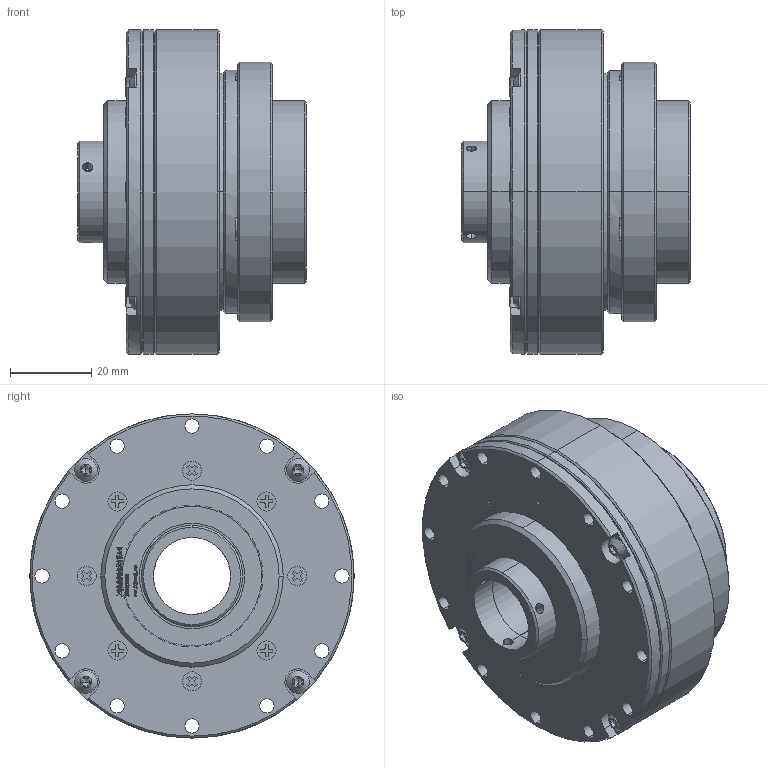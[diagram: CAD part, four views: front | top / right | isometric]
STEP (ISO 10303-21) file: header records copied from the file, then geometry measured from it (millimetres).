
FILE_DESCRIPTION (( 'STEP AP203' ), '1' );
FILE_NAME ('FXHSG炵蹈[LHSG-20-XXX-C-III].STEP', '2020-07-21T16:21:02', ( '' ), ( '' ), 'SwSTEP 2.0', 'SolidWorks 2016', '' );
FILE_SCHEMA (( 'CONFIG_CONTROL_DESIGN' ));
Length unit declared in the file: millimetre
Products named in the file (1): FXHSG炵蹈[LHSG-20-XXX-C-III]
Bounding box: 56.5 x 80 x 80 mm (x, y, z)
Volume: 182298.5 mm3; surface area: 55011.9 mm2
Topology: 31 solids, 31 shells, 3070 faces, 8540 edges, 5592 vertices
Faces by surface type: plane 1700, bspline 983, cylinder 256, cone 131
Entity records: 136591 total; most frequent: CARTESIAN_POINT 64436, ORIENTED_EDGE 16816, DIRECTION 11573, EDGE_CURVE 8408, VERTEX_POINT 5592, LINE 5551, VECTOR 5551, EDGE_LOOP 3314
